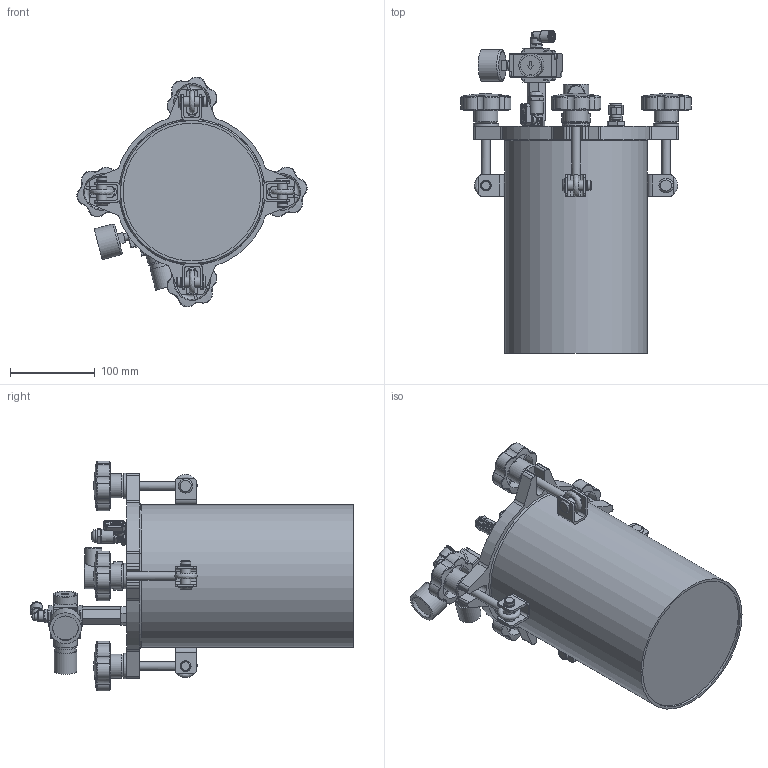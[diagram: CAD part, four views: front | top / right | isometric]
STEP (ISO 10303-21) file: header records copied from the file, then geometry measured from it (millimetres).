
FILE_DESCRIPTION (( 'STEP AP214' ), '1' );
FILE_NAME ('PT5LLS.STEP', '2024-10-11T14:35:21', ( '' ), ( '' ), 'SwSTEP 2.0', 'SolidWorks 2024', '' );
FILE_SCHEMA (( 'AUTOMOTIVE_DESIGN' ));
Length unit declared in the file: millimetre
Products named in the file (1): PT5LLS
Bounding box: 271.13 x 380 x 270.77 mm (x, y, z)
Volume: 1467653.2 mm3; surface area: 559256.8 mm2
Topology: 42 solids, 53 shells, 1379 faces, 3419 edges, 2218 vertices
Faces by surface type: plane 680, cylinder 334, bspline 215, cone 94, torus 52, sphere 4
Full cylindrical faces by diameter (mm): 1.9 x1, 2 x1, 3 x1, 4.5 x1, 5 x4, 5.5 x1, 5.6 x4, 6 x3, 6.15 x1, 7 x1, 7.4 x1, 7.5 x1, 8 x2, 8.15 x1, 8.3 x1, 8.376 x4, 8.566 x2, 9 x4, 9.4 x1, 10 x6, 10.4 x4, 11 x2, 11.2 x4, 11.445 x2, 11.6 x1, 11.8 x2, 12 x9, 12.5 x1, 12.7 x8, 13 x3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
Entity records: 71854 total; most frequent: CARTESIAN_POINT 41547, ORIENTED_EDGE 6238, DIRECTION 5483, EDGE_CURVE 3119, VERTEX_POINT 2125, AXIS2_PLACEMENT_3D 1930, EDGE_LOOP 1712, VECTOR 1623
